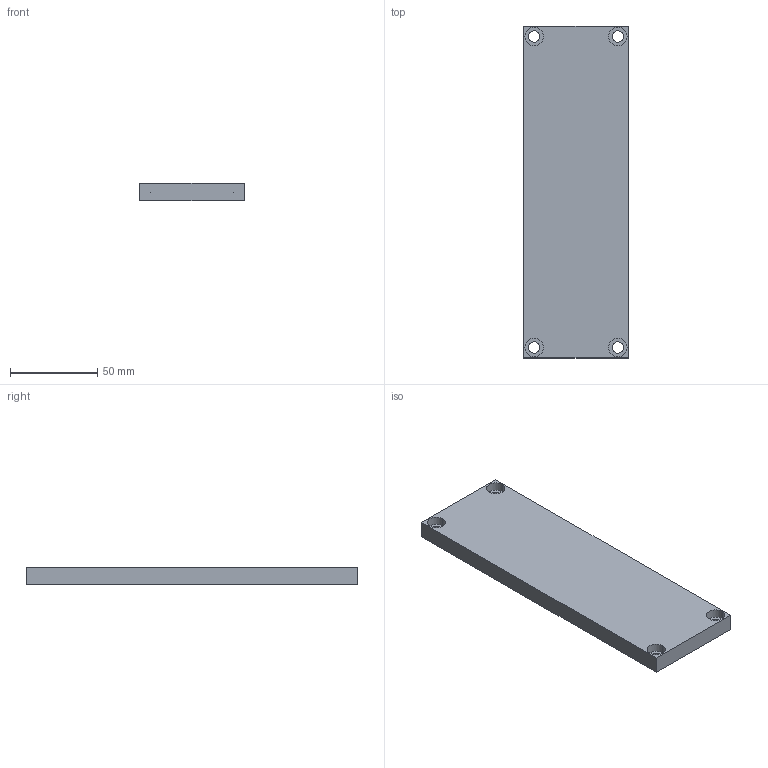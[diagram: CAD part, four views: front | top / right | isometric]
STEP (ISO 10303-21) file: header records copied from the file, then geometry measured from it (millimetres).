
FILE_DESCRIPTION((''),'2;1');
FILE_NAME('V:\CAD\Inventor-Stp\VE 20\stp\06-02-020.stp','2003-10-20T14:24:24',('VS'),(''),'Autodesk Inventor (R) 6.0','Autodesk Inventor (R) 6.0','');
FILE_SCHEMA(('CONFIG_CONTROL_DESIGN'));
Length unit declared in the file: millimetre
Products named in the file (1): Bauteil1
Bounding box: 60 x 190 x 10 mm (x, y, z)
Volume: 111477 mm3; surface area: 28635.5 mm2
Topology: 1 solids, 1 shells, 32 faces, 72 edges, 48 vertices
Faces by surface type: bspline 26, plane 6
Entity records: 1287 total; most frequent: CARTESIAN_POINT 511, ORIENTED_EDGE 144, DIRECTION 126, EDGE_CURVE 72, VERTEX_POINT 48, AXIS2_PLACEMENT_3D 47, EDGE_LOOP 46, CIRCLE 40
